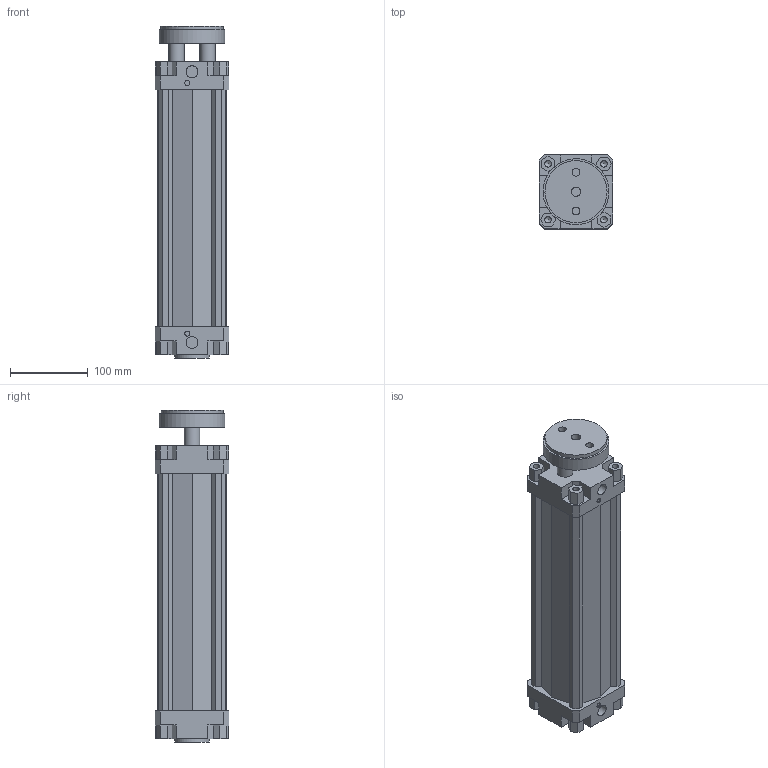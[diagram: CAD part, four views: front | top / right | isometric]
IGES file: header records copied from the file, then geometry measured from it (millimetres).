
Global section: file name: 132#_080_0250_01; native system: Autodesk Inventor 2014; preprocessor: unknown; author: A. Manieri; date: 20161006.162415; units: millimetre
Bounding box: 95 x 95 x 428 mm (x, y, z)
Volume: 1716307.4 mm3; surface area: 345223.6 mm2
Topology: 2 solids, 2 shells, 180 faces, 491 edges, 335 vertices
Faces by surface type: bspline 180
